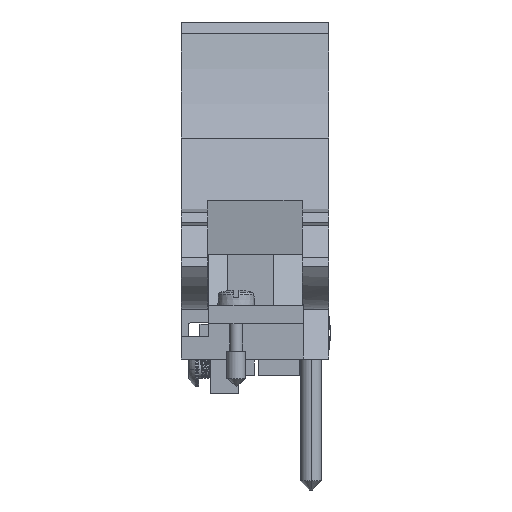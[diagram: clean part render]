
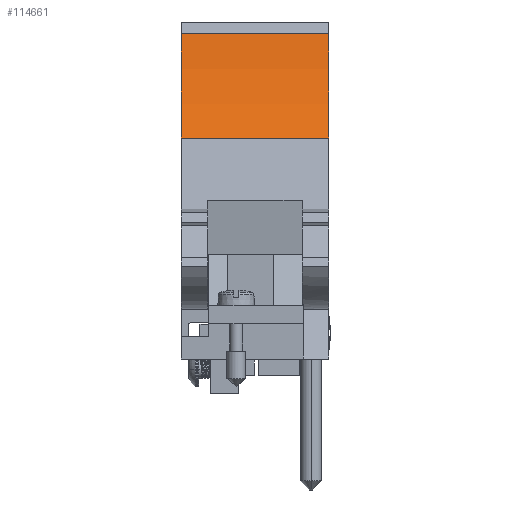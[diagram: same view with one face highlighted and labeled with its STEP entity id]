
A CAD part, front view. The second image highlights one B-rep face of the part: STEP entity #114661.
In plain terms, the highlighted cylindrical face has radius 51.46 mm (diameter 102.919 mm), a partial arc.
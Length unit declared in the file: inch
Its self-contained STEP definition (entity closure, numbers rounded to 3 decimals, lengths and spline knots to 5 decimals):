
#95796=CARTESIAN_POINT('',(-0.155,-5.95043,6.05078));
#95797=DIRECTION('',(1.,0.,0.));
#95798=DIRECTION('',(0.,0.9,-0.435));
#95799=AXIS2_PLACEMENT_3D('',#95796,#95797,#95798);
#97212=CARTESIAN_POINT('',(0.633,-5.95043,6.05078));
#97213=DIRECTION('',(1.,0.,0.));
#97214=DIRECTION('',(0.,0.9,-0.435));
#97215=AXIS2_PLACEMENT_3D('',#97212,#97213,#97214);
#97483=DIRECTION('',(1.,0.,0.));
#97484=VECTOR('',#97483,0.788);
#97485=CARTESIAN_POINT('',(-0.155,-3.95043,5.72745));
#97486=LINE('',#97485,#97484);
#97491=DIRECTION('',(1.,0.,0.));
#97492=VECTOR('',#97491,0.788);
#97493=CARTESIAN_POINT('',(-0.155,-4.12619,5.16948));
#97494=LINE('',#97493,#97492);
#109310=CARTESIAN_POINT('',(-0.155,-4.12619,5.16948));
#109311=CARTESIAN_POINT('',(-0.155,-3.95043,5.72745));
#109312=VERTEX_POINT('',#109310);
#109313=VERTEX_POINT('',#109311);
#109314=CARTESIAN_POINT('',(0.633,-4.12619,5.16948));
#109315=CARTESIAN_POINT('',(0.633,-3.95043,5.72745));
#109316=VERTEX_POINT('',#109314);
#109317=VERTEX_POINT('',#109315);
#114649=CARTESIAN_POINT('',(0.633,-5.95043,6.05078));
#114650=DIRECTION('',(1.,0.,0.));
#114651=DIRECTION('',(0.,1.,0.));
#114652=AXIS2_PLACEMENT_3D('',#114649,#114650,#114651);
#114653=CYLINDRICAL_SURFACE('',#114652,2.02597);
#114654=ORIENTED_EDGE('',*,*,#112207,.T.);
#114655=ORIENTED_EDGE('',*,*,#114641,.T.);
#114656=ORIENTED_EDGE('',*,*,#114246,.F.);
#114658=ORIENTED_EDGE('',*,*,#114657,.F.);
#114659=EDGE_LOOP('',(#114654,#114655,#114656,#114658));
#114660=FACE_OUTER_BOUND('',#114659,.F.);
#114661=ADVANCED_FACE('',(#114660),#114653,.F.);
#95800=CIRCLE('',#95799,2.02597);
#97216=CIRCLE('',#97215,2.02597);
#112207=EDGE_CURVE('',#109312,#109313,#95800,.T.);
#114246=EDGE_CURVE('',#109316,#109317,#97216,.T.);
#114641=EDGE_CURVE('',#109313,#109317,#97486,.T.);
#114657=EDGE_CURVE('',#109312,#109316,#97494,.T.);
